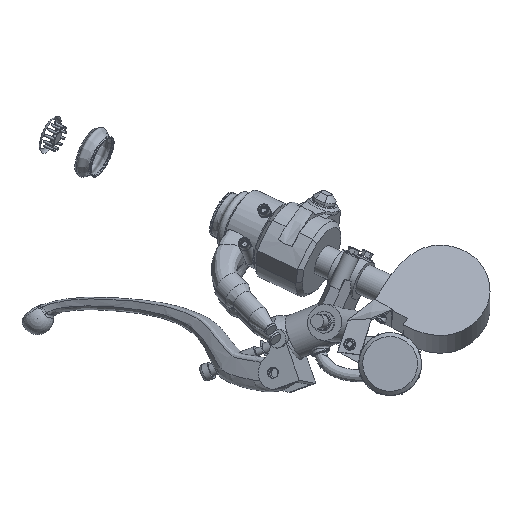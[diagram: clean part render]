
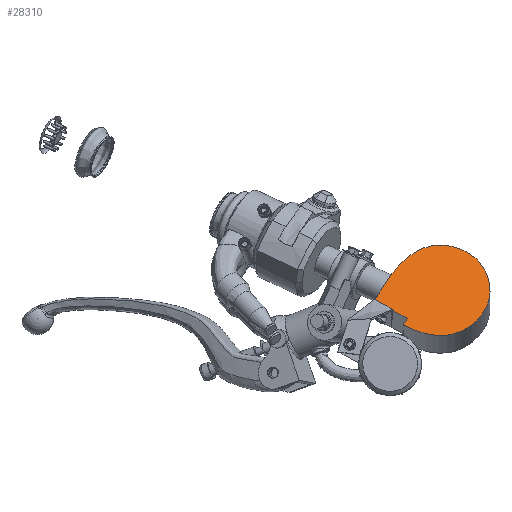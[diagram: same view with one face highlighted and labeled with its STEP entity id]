
A CAD part, top view. The second image highlights one B-rep face of the part: STEP entity #28310.
In plain terms, the highlighted planar face has unit normal (0, 0.389, 0.921).
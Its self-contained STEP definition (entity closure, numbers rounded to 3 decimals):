
#25994 = VERTEX_POINT('',#25995);
#25995 = CARTESIAN_POINT('',(-154.591,420.497,
    105.318));
#26002 = EDGE_CURVE('',#25994,#26003,#26005,.T.);
#26003 = VERTEX_POINT('',#26004);
#26004 = CARTESIAN_POINT('',(-143.587,437.047,
    98.32));
#26005 = LINE('',#26006,#26007);
#26006 = CARTESIAN_POINT('',(-154.693,420.343,
    105.383));
#26007 = VECTOR('',#26008,1.);
#26008 = DIRECTION('',(0.522,0.785,-0.332));
#27522 = VERTEX_POINT('',#27523);
#27523 = CARTESIAN_POINT('',(-143.111,414.445,
    107.872));
#27533 = EDGE_CURVE('',#25994,#27522,#27534,.T.);
#27534 = B_SPLINE_CURVE_WITH_KNOTS('',3,(#27535,#27536,#27537,#27538,
    #27539,#27540),.UNSPECIFIED.,.F.,.F.,(4,2,4),(0.01,
    0.666,1.332),.UNSPECIFIED.);
#27535 = CARTESIAN_POINT('',(-154.591,420.497,
    105.318));
#27536 = CARTESIAN_POINT('',(-152.693,419.497,
    105.74));
#27537 = CARTESIAN_POINT('',(-150.796,418.497,
    106.162));
#27538 = CARTESIAN_POINT('',(-146.969,416.48,
    107.013));
#27539 = CARTESIAN_POINT('',(-145.04,415.463,
    107.443));
#27540 = CARTESIAN_POINT('',(-143.111,414.445,
    107.872));
#28271 = VERTEX_POINT('',#28272);
#28272 = CARTESIAN_POINT('',(-143.298,414.144,
    107.999));
#28287 = EDGE_CURVE('',#27522,#28271,#28288,.T.);
#28288 = B_SPLINE_CURVE_WITH_KNOTS('',3,(#28289,#28290,#28291,#28292),
  .UNSPECIFIED.,.F.,.F.,(4,4),(0.,0.038),
  .PIECEWISE_BEZIER_KNOTS.);
#28289 = CARTESIAN_POINT('',(-143.111,414.445,
    107.872));
#28290 = CARTESIAN_POINT('',(-143.173,414.345,
    107.915));
#28291 = CARTESIAN_POINT('',(-143.236,414.245,
    107.957));
#28292 = CARTESIAN_POINT('',(-143.298,414.144,
    107.999));
#28310 = ADVANCED_FACE('',(#28311),#28401,.F.);
#28311 = FACE_BOUND('',#28312,.T.);
#28312 = EDGE_LOOP('',(#28313,#28314,#28315,#28323,#28331,#28349,#28400)
  );
#28313 = ORIENTED_EDGE('',*,*,#27533,.T.);
#28314 = ORIENTED_EDGE('',*,*,#28287,.T.);
#28315 = ORIENTED_EDGE('',*,*,#28316,.F.);
#28316 = EDGE_CURVE('',#28317,#28271,#28319,.T.);
#28317 = VERTEX_POINT('',#28318);
#28318 = CARTESIAN_POINT('',(-133.948,409.058,
    110.146));
#28319 = LINE('',#28320,#28321);
#28320 = CARTESIAN_POINT('',(-130.715,407.299,
    110.889));
#28321 = VECTOR('',#28322,1.);
#28322 = DIRECTION('',(-0.861,0.468,-0.198));
#28323 = ORIENTED_EDGE('',*,*,#28324,.T.);
#28324 = EDGE_CURVE('',#28317,#28325,#28327,.T.);
#28325 = VERTEX_POINT('',#28326);
#28326 = CARTESIAN_POINT('',(-136.508,405.065,
    111.835));
#28327 = LINE('',#28328,#28329);
#28328 = CARTESIAN_POINT('',(-133.948,409.058,
    110.146));
#28329 = VECTOR('',#28330,1.);
#28330 = DIRECTION('',(-0.508,-0.793,0.335));
#28331 = ORIENTED_EDGE('',*,*,#28332,.T.);
#28332 = EDGE_CURVE('',#28325,#28333,#28335,.T.);
#28333 = VERTEX_POINT('',#28334);
#28334 = CARTESIAN_POINT('',(-114.392,398.418,
    114.637));
#28335 = B_SPLINE_CURVE_WITH_KNOTS('',5,(#28336,#28337,#28338,#28339,
    #28340,#28341,#28342,#28343,#28344,#28345,#28346,#28347,#28348),
  .UNSPECIFIED.,.F.,.F.,(6,1,1,1,1,1,1,1,6),(0.,0.02,0.04,0.06,
    0.08,0.1,0.12,0.14,0.145),.UNSPECIFIED.);
#28336 = CARTESIAN_POINT('',(-136.508,405.065,
    111.835));
#28337 = CARTESIAN_POINT('',(-135.956,404.756,
    111.965));
#28338 = CARTESIAN_POINT('',(-134.843,404.154,
    112.219));
#28339 = CARTESIAN_POINT('',(-133.147,403.298,
    112.58));
#28340 = CARTESIAN_POINT('',(-130.834,402.253,
    113.021));
#28341 = CARTESIAN_POINT('',(-127.856,401.11,
    113.504));
#28342 = CARTESIAN_POINT('',(-124.798,400.135,
    113.914));
#28343 = CARTESIAN_POINT('',(-121.667,399.343,
    114.248));
#28344 = CARTESIAN_POINT('',(-118.946,398.84,
    114.46));
#28345 = CARTESIAN_POINT('',(-116.844,398.58,
    114.57));
#28346 = CARTESIAN_POINT('',(-115.382,398.467,
    114.617));
#28347 = CARTESIAN_POINT('',(-114.565,398.426,
    114.634));
#28348 = CARTESIAN_POINT('',(-114.392,398.418,
    114.637));
#28349 = ORIENTED_EDGE('',*,*,#28350,.T.);
#28350 = EDGE_CURVE('',#28333,#26003,#28351,.T.);
#28351 = B_SPLINE_CURVE_WITH_KNOTS('',5,(#28352,#28353,#28354,#28355,
    #28356,#28357,#28358,#28359,#28360,#28361,#28362,#28363,#28364,
    #28365,#28366,#28367,#28368,#28369,#28370,#28371,#28372,#28373,
    #28374,#28375,#28376,#28377,#28378,#28379,#28380,#28381,#28382,
    #28383,#28384,#28385,#28386,#28387,#28388,#28389,#28390,#28391,
    #28392,#28393,#28394,#28395,#28396,#28397,#28398,#28399),
  .UNSPECIFIED.,.F.,.F.,(6,1,1,1,1,1,1,1,1,1,1,1,1,1,1,1,1,1,1,1,1,1,1,1
    ,1,1,1,1,1,1,1,1,1,1,1,1,1,1,1,1,1,1,1,6),(0.145,0.16,0.18,
    0.2,0.22,0.24,0.26,0.28,0.3,0.32,0.34,0.36,0.38,0.4,0.42,0.44,0.46,
    0.48,0.5,0.52,0.54,0.56,0.58,0.6,0.62,0.64,0.66,0.68,0.7,0.72,0.74,
    0.76,0.78,0.8,0.82,0.84,0.86,0.88,0.9,0.92,0.94,0.96,0.98,1.),
  .UNSPECIFIED.);
#28352 = CARTESIAN_POINT('',(-114.392,398.418,
    114.637));
#28353 = CARTESIAN_POINT('',(-113.921,398.398,
    114.646));
#28354 = CARTESIAN_POINT('',(-112.806,398.366,
    114.659));
#28355 = CARTESIAN_POINT('',(-111.051,398.384,
    114.65));
#28356 = CARTESIAN_POINT('',(-108.669,398.566,
    114.573));
#28357 = CARTESIAN_POINT('',(-105.704,399.089,
    114.351));
#28358 = CARTESIAN_POINT('',(-102.663,399.982,
    113.973));
#28359 = CARTESIAN_POINT('',(-99.742,401.203,
    113.456));
#28360 = CARTESIAN_POINT('',(-96.965,402.722,
    112.813));
#28361 = CARTESIAN_POINT('',(-94.353,404.498,
    112.061));
#28362 = CARTESIAN_POINT('',(-91.926,406.489,
    111.219));
#28363 = CARTESIAN_POINT('',(-89.709,408.655,
    110.303));
#28364 = CARTESIAN_POINT('',(-87.729,410.97,
    109.324));
#28365 = CARTESIAN_POINT('',(-86.014,413.418,
    108.289));
#28366 = CARTESIAN_POINT('',(-84.594,415.989,
    107.202));
#28367 = CARTESIAN_POINT('',(-83.493,418.674,
    106.067));
#28368 = CARTESIAN_POINT('',(-82.73,421.461,
    104.889));
#28369 = CARTESIAN_POINT('',(-82.315,424.332,
    103.675));
#28370 = CARTESIAN_POINT('',(-82.247,427.26,
    102.438));
#28371 = CARTESIAN_POINT('',(-82.522,430.213,
    101.19));
#28372 = CARTESIAN_POINT('',(-83.13,433.154,
    99.947));
#28373 = CARTESIAN_POINT('',(-84.058,436.042,
    98.727));
#28374 = CARTESIAN_POINT('',(-85.293,438.833,
    97.548));
#28375 = CARTESIAN_POINT('',(-86.822,441.482,
    96.428));
#28376 = CARTESIAN_POINT('',(-88.629,443.949,
    95.386));
#28377 = CARTESIAN_POINT('',(-90.697,446.198,
    94.436));
#28378 = CARTESIAN_POINT('',(-93.01,448.204,
    93.589));
#28379 = CARTESIAN_POINT('',(-95.546,449.954,
    92.851));
#28380 = CARTESIAN_POINT('',(-98.281,451.445,
    92.221));
#28381 = CARTESIAN_POINT('',(-101.19,452.679,
    91.7));
#28382 = CARTESIAN_POINT('',(-104.242,453.658,
    91.288));
#28383 = CARTESIAN_POINT('',(-107.4,454.376,
    90.985));
#28384 = CARTESIAN_POINT('',(-110.624,454.816,
    90.8));
#28385 = CARTESIAN_POINT('',(-113.867,454.953,
    90.743));
#28386 = CARTESIAN_POINT('',(-117.085,454.763,
    90.825));
#28387 = CARTESIAN_POINT('',(-120.235,454.229,
    91.051));
#28388 = CARTESIAN_POINT('',(-123.28,453.349,
    91.424));
#28389 = CARTESIAN_POINT('',(-126.192,452.149,
    91.932));
#28390 = CARTESIAN_POINT('',(-128.954,450.675,
    92.556));
#28391 = CARTESIAN_POINT('',(-131.555,448.986,
    93.27));
#28392 = CARTESIAN_POINT('',(-133.989,447.144,
    94.05));
#28393 = CARTESIAN_POINT('',(-136.256,445.204,
    94.87));
#28394 = CARTESIAN_POINT('',(-138.353,443.207,
    95.715));
#28395 = CARTESIAN_POINT('',(-140.281,441.176,
    96.574));
#28396 = CARTESIAN_POINT('',(-141.688,439.533,
    97.269));
#28397 = CARTESIAN_POINT('',(-142.667,438.293,
    97.793));
#28398 = CARTESIAN_POINT('',(-143.286,437.463,
    98.144));
#28399 = CARTESIAN_POINT('',(-143.587,437.047,
    98.32));
#28400 = ORIENTED_EDGE('',*,*,#26002,.F.);
#28401 = PLANE('',#28402);
#28402 = AXIS2_PLACEMENT_3D('',#28403,#28404,#28405);
#28403 = CARTESIAN_POINT('',(-118.468,426.638,
    102.712));
#28404 = DIRECTION('',(0.,-0.389,
    -0.921));
#28405 = DIRECTION('',(1.,-0.001,
    0.));
